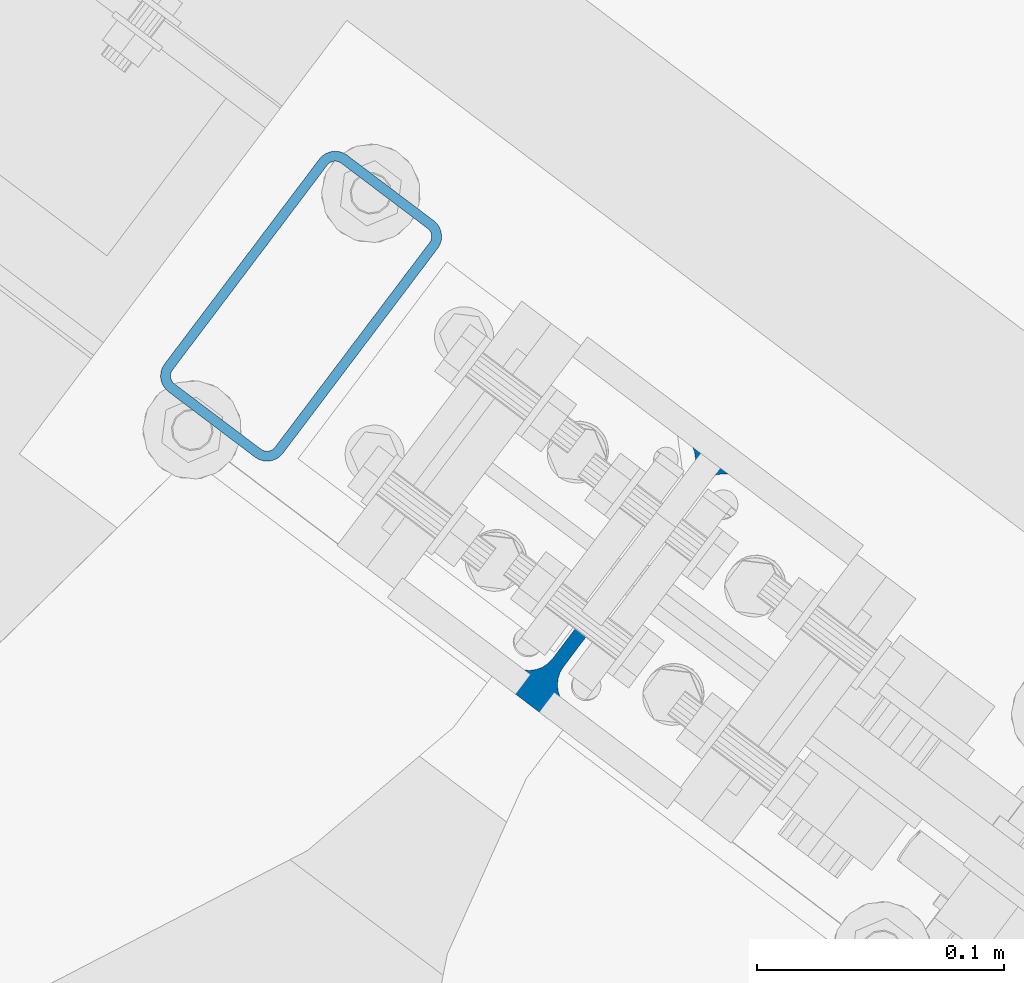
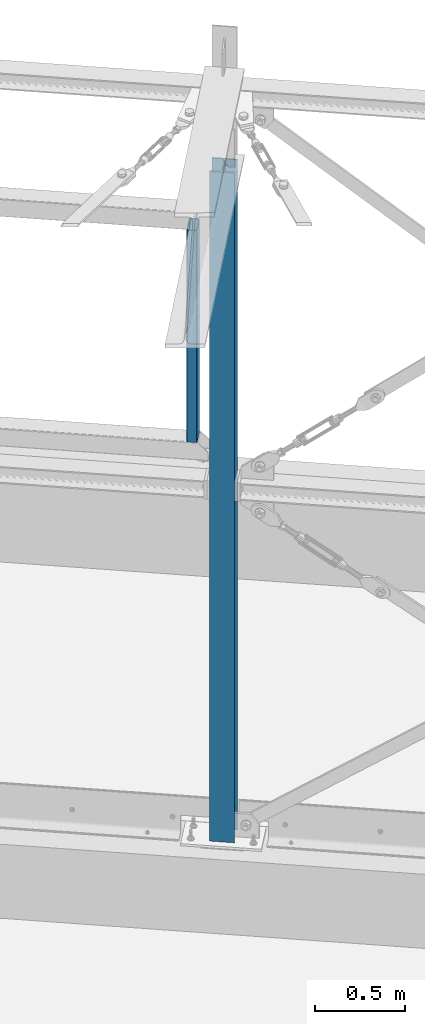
# One storey, part 4 of 476: 2 columns.
"""IFC2X3 building model written with IfcOpenShell, lengths in millimetres."""

from ifc_helpers import new_model, entity, si_unit, converted_unit, frame, origin, origin_with_axes, origin_2d, place, context, project, spatial, hollow_rectangle, i_section, extrude, clip, halfspace, material, element, save


model = new_model("IFC2X3")

# Units and contexts
model_context = context("Model", 3, precision=1e-09, world=origin_with_axes())
ifc_project = project(units=[si_unit("LENGTHUNIT", "METRE", prefix="MILLI"), si_unit("AREAUNIT", "SQUARE_METRE"), si_unit("VOLUMEUNIT", "CUBIC_METRE"), converted_unit("PLANEANGLEUNIT", "DEGREE", entity("IfcPlaneAngleMeasure", 0.01745329), si_unit("PLANEANGLEUNIT", "RADIAN"), dimensions=[0, 0, 0, 0, 0, 0, 0])], contexts=[model_context])

# Site, building, storey
site_placement = place(None, origin_with_axes())
site = spatial("IfcSite", under=ifc_project, at=site_placement, Name="mKR Teilneubau & Sanierung BA1 - Ostfildern", CompositionType="ELEMENT")
building_placement = place(site_placement, origin_with_axes())
building = spatial("IfcBuilding", under=site, at=building_placement, Name="Struktur 1", CompositionType="ELEMENT")
storey_placement = place(building_placement, origin_with_axes())
storey = spatial("IfcBuildingStorey", under=building, at=storey_placement, Name="Default Storey", CompositionType="ELEMENT", Elevation=0.0)

# Columns
ifc_material = material(Name="S235JR")
column_1_placement = place(None, frame((13829.28745757, 7067.695738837, 403.448200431), z_axis=(0.0, 0.0, 1.0), x_axis=(0.797941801, -0.602734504, 0.0)))
element("IfcColumn", 1, at=column_1_placement, inside=storey, material=ifc_material, Name="-", ObjectType="-", context=model_context, shape_type="Clipping", body=[
    clip(clip(extrude(i_section(OverallWidth=140.0, OverallDepth=133.0, WebThickness=5.5, FlangeThickness=8.5, FilletRadius=12.0, at=origin_2d()), origin(), (0.0, 0.0, 1.0), 5082.024663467), halfspace(frame((-6775.022448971, -13974.998585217, 141.552799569), z_axis=(0.0, 0.0, 1.0), x_axis=(0.797941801, 0.602734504, 0.0)), True)), halfspace(frame((-6775.022448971, -14114.591712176, 4241.062548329), z_axis=(0.0, 0.030041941, -0.999548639), x_axis=(-1.0, 0.0, 0.0)), True)),
])
column_2_placement = place(None, frame((13697.555069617, 7175.347282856, 3220.0), z_axis=(0.0, 0.0, -1.0), x_axis=(-0.797941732, 0.602734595, 0.0)))
element("IfcColumn", 2, at=column_2_placement, inside=storey, material=ifc_material, Name="-", ObjectType="-", context=model_context, shape_type="SweptSolid", body=[
    extrude(hollow_rectangle(XDim=60.0, YDim=120.0, WallThickness=4.0, InnerFilletRadius=4.0, OuterFilletRadius=8.0, at=origin_2d()), origin(), (0.0, 0.0, -1.0), 1430.0),
])

save(model, "model.ifc")
